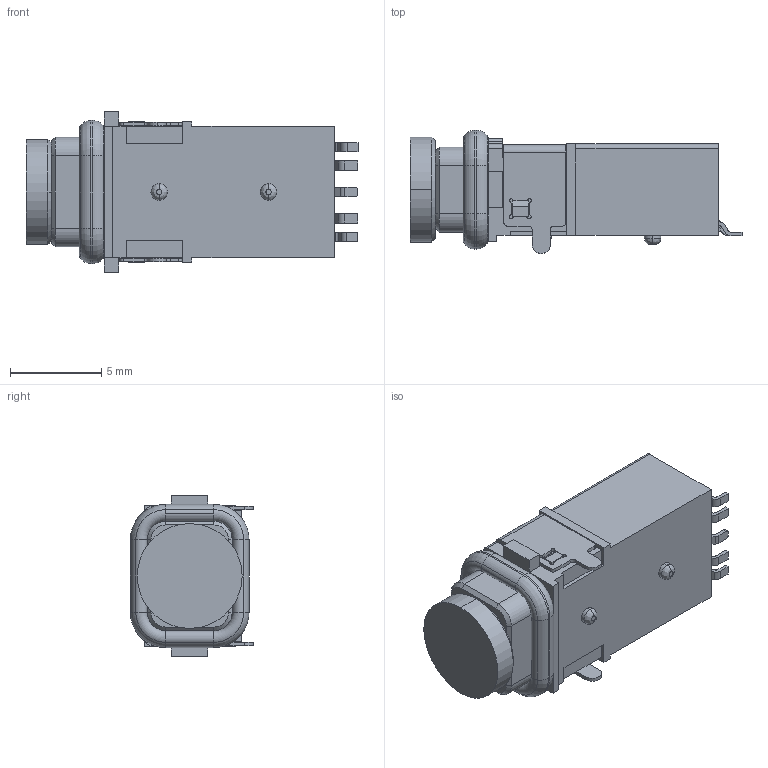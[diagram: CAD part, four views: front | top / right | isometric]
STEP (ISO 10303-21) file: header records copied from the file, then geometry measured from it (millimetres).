
FILE_DESCRIPTION(/* description */ (''),/* implementation_level */ '2;1');
FILE_NAME(/* name */ 'PJ35A099-F06J1BR-B 客户图 20250815.stp',/* time_stamp */ '2025-08-15T10:23:31+08:00',/* author */ (''),/* organization */ (''),/* preprocessor_version */ 'ST-DEVELOPER v16.7',/* originating_system */ 'SIEMENS PLM Software NX 12.0',/* authorisation */ '');
FILE_SCHEMA (('AUTOMOTIVE_DESIGN { 1 0 10303 214 3 1 1 1 }'));
Length unit declared in the file: millimetre
Products named in the file (1): _model2
Bounding box: 18.2 x 6.75 x 8.8 mm (x, y, z)
Volume: 527.2 mm3; surface area: 1377.1 mm2
Topology: 3 solids, 4 shells, 1095 faces, 3033 edges, 1919 vertices
Faces by surface type: plane 637, cylinder 344, bspline 54, cone 34, torus 26
Entity records: 35762 total; most frequent: CARTESIAN_POINT 7872, ORIENTED_EDGE 6066, DIRECTION 5575, EDGE_CURVE 3033, LINE 2113, VECTOR 2113, VERTEX_POINT 1919, AXIS2_PLACEMENT_3D 1731
